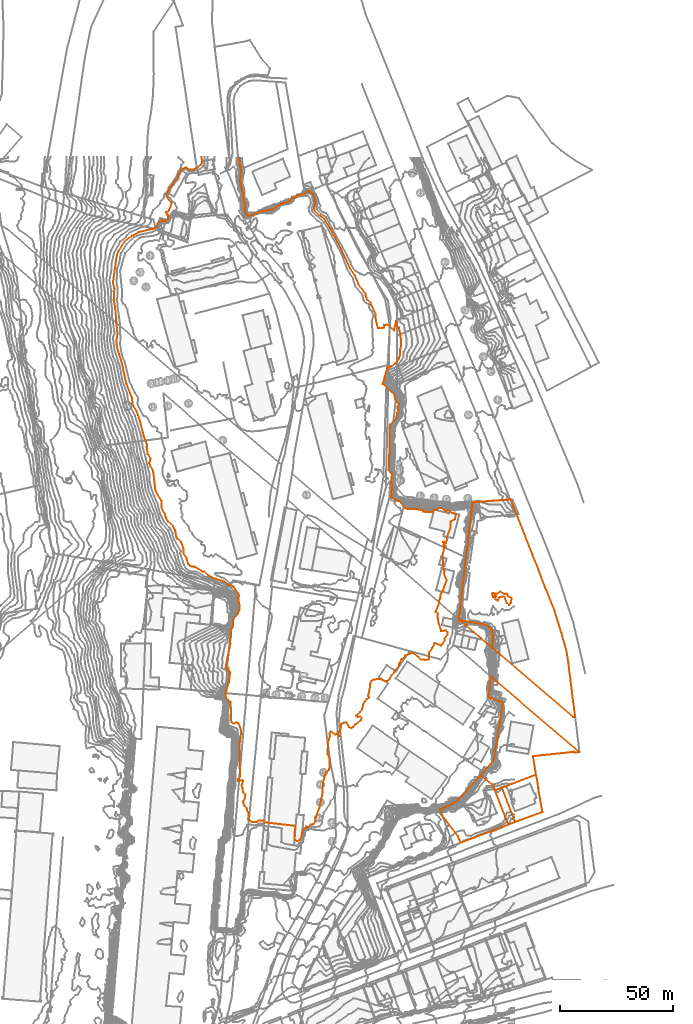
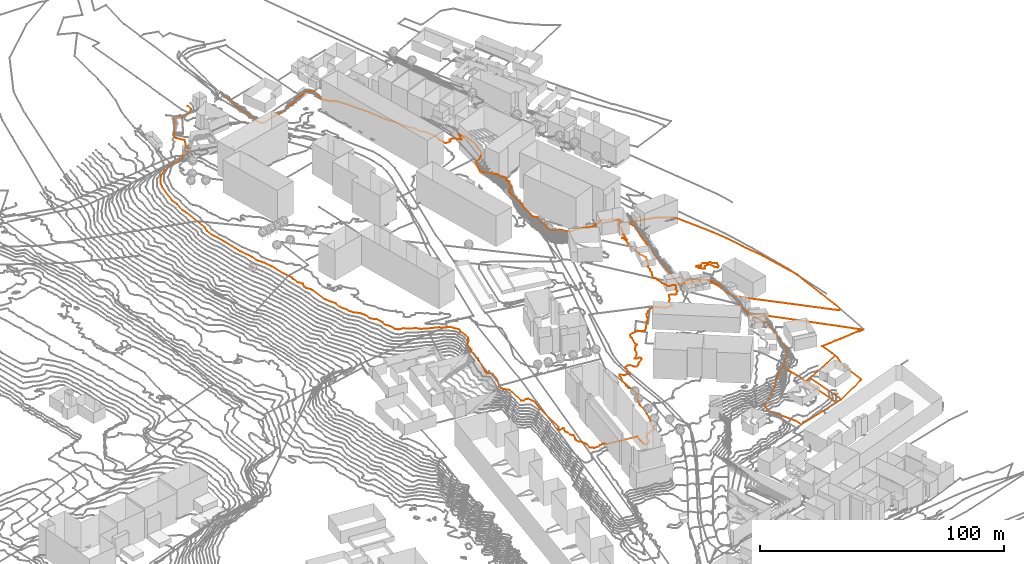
# Not in any storey, part 377 of 419: 8 proxies.
"""IFC2X3 model written with IfcOpenShell, lengths in metres."""

from ifc_helpers import new_model, entity, si_unit, frame, origin_with_axes, place, context, subcontext, project, element, save


model = new_model("IFC2X3")

# Units and contexts
model_context = context("Model", 3, precision=1e-05, world=origin_with_axes())
body_context = subcontext(model_context, "Body", "Model", "MODEL_VIEW")
ifc_project = project(units=[si_unit("AREAUNIT", "SQUARE_METRE"), si_unit("LENGTHUNIT", "METRE")], contexts=[model_context])

# Proxies
proxy_1_placement = place(None, frame((970.9420204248, 753.0076909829, 82.8683754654), z_axis=(0.0, 0.0, 1.0), x_axis=(1.0, 0.0, 0.0)))
element("IfcBuildingElementProxy", 1, at=proxy_1_placement, Name="Cadastre 8", ObjectType="NOTDEFINED", context=body_context, shape_type="GeometricCurveSet", body=[
    entity("IfcGeometricCurveSet", [entity("IfcPolyline", [entity("IfcCartesianPoint", [0.0, 0.0, 0.0]), entity("IfcCartesianPoint", [15.0800000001, 5.7999999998, 2.4126217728]), entity("IfcCartesianPoint", [15.4300000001, 4.4399999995, 2.257627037]), entity("IfcCartesianPoint", [15.87, 1.7000000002, 0.5617233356]), entity("IfcCartesianPoint", [16.13, -0.6299999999, 0.1626233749]), entity("IfcCartesianPoint", [17.92, -10.7200000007, -0.555573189]), entity("IfcCartesianPoint", [17.28, -10.9400000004, -0.6699741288]), entity("IfcCartesianPoint", [5.86, -15.1699999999, -3.4803737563]), entity("IfcCartesianPoint", [0.0, 0.0, 0.0])])]),
])
proxy_2_placement = place(None, frame((961.4220204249, 758.4876909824, 89.5835843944), z_axis=(0.0, 0.0, 1.0), x_axis=(1.0, 0.0, 0.0)))
element("IfcBuildingElementProxy", 2, at=proxy_2_placement, Name="Cadastre 9", ObjectType="NOTDEFINED", context=body_context, shape_type="GeometricCurveSet", body=[
    entity("IfcGeometricCurveSet", [entity("IfcPolyline", [entity("IfcCartesianPoint", [1.11, 1.54, -1.005230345]), entity("IfcCartesianPoint", [5.8099999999, 6.5300000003, 1.5437929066]), entity("IfcCartesianPoint", [8.86, 25.5600000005, -0.0550709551]), entity("IfcCartesianPoint", [9.37, 28.4700000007, -0.3692646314]), entity("IfcCartesianPoint", [9.9199999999, 32.1000000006, -1.8689074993]), entity("IfcCartesianPoint", [3.61, 34.6400000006, 3.0663180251]), entity("IfcCartesianPoint", [4.5399999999, 43.7300000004, 1.9714544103]), entity("IfcCartesianPoint", [5.1299999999, 43.25, 0.2016531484]), entity("IfcCartesianPoint", [7.5399999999, 41.1699999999, -1.876895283]), entity("IfcCartesianPoint", [43.6499999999, 10.29, -4.0517862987]), entity("IfcCartesianPoint", [41.5699999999, 10.0499999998, -4.0781864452]), entity("IfcCartesianPoint", [41.46, 10.4199999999, -4.0374862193]), entity("IfcCartesianPoint", [38.09, 10.0499999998, -4.0781864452]), entity("IfcCartesianPoint", [33.9099999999, 9.6100000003, -4.0755849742]), entity("IfcCartesianPoint", [32.0599999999, 9.3799999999, -4.0617837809]), entity("IfcCartesianPoint", [29.74, 9.1900000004, -4.0503827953]), entity("IfcCartesianPoint", [27.09, 8.8799999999, -4.0350814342]), entity("IfcCartesianPoint", [23.24, 8.4800000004, -4.0550826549]), entity("IfcCartesianPoint", [24.3099999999, 2.4500000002, -4.2211838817]), entity("IfcCartesianPoint", [24.6, 0.3200000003, -4.3025871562]), entity("IfcCartesianPoint", [9.5199999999, -5.4799999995, -6.715208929]), entity("IfcCartesianPoint", [6.37, -6.54, -6.5966871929]), entity("IfcCartesianPoint", [5.75, -4.6499999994, -5.8353374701]), entity("IfcCartesianPoint", [0.47, -0.46, -1.9553640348]), entity("IfcCartesianPoint", [0.0, 0.0, 0.0]), entity("IfcCartesianPoint", [1.11, 1.54, -1.005230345])])]),
])
proxy_3_placement = place(None, frame((967.7920204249, 751.9476909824, 82.9868972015), z_axis=(0.0, 0.0, 1.0), x_axis=(1.0, 0.0, 0.0)))
element("IfcBuildingElementProxy", 3, at=proxy_3_placement, Name="Cadastre 10", ObjectType="NOTDEFINED", context=body_context, shape_type="GeometricCurveSet", body=[
    entity("IfcGeometricCurveSet", [entity("IfcPolyline", [entity("IfcCartesianPoint", [0.0, 0.0, 0.0]), entity("IfcCartesianPoint", [3.1499999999, 1.0600000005, -0.1185217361]), entity("IfcCartesianPoint", [9.0099999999, -14.1099999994, -3.5988954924]), entity("IfcCartesianPoint", [6.0199999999, -15.2599999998, -3.4416612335]), entity("IfcCartesianPoint", [0.0, 0.0, 0.0])])]),
])
proxy_4_placement = place(None, frame((943.5620204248, 743.5476909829, 84.6635524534), z_axis=(0.0, 0.0, 1.0), x_axis=(1.0, 0.0, 0.0)))
element("IfcBuildingElementProxy", 4, at=proxy_4_placement, Name="Cadastre 11", ObjectType="NOTDEFINED", context=body_context, shape_type="GeometricCurveSet", body=[
    entity("IfcGeometricCurveSet", [entity("IfcPolyline", [entity("IfcCartesianPoint", [17.8600000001, 14.9399999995, 4.9200319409]), entity("IfcCartesianPoint", [18.3300000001, 14.4799999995, 2.9646679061]), entity("IfcCartesianPoint", [23.6100000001, 10.29, -0.9153055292]), entity("IfcCartesianPoint", [24.2300000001, 8.3999999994, -1.676655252]), entity("IfcCartesianPoint", [30.25, -6.8600000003, -5.1183164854]), entity("IfcCartesianPoint", [9.05, -14.8900000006, -3.7934117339]), entity("IfcCartesianPoint", [7.89, -11.9199999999, -3.2186648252]), entity("IfcCartesianPoint", [1.14, -3.0800000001, -1.8283359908]), entity("IfcCartesianPoint", [0.0, 0.0, 0.0]), entity("IfcCartesianPoint", [4.54, 1.8799999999, 2.1859338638]), entity("IfcCartesianPoint", [7.66, 3.7799999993, 5.8842881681]), entity("IfcCartesianPoint", [8.88, 5.1600000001, 7.6523685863]), entity("IfcCartesianPoint", [17.8600000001, 14.9399999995, 4.9200319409])])]),
])
proxy_5_placement = place(None, frame((952.3720204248, 827.2176909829, 91.244458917), z_axis=(0.0, 0.0, 1.0), x_axis=(1.0, 0.0, 0.0)))
element("IfcBuildingElementProxy", 5, at=proxy_5_placement, Name="Cadastre 56", ObjectType="NOTDEFINED", context=body_context, shape_type="GeometricCurveSet", body=[
    entity("IfcGeometricCurveSet", [entity("IfcPolyline", [entity("IfcCartesianPoint", [14.37, -12.4300000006, -1.0857318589]), entity("IfcCartesianPoint", [9.24, -8.0300000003, 3.5097724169]), entity("IfcCartesianPoint", [6.21, -5.5300000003, 3.5861718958]), entity("IfcCartesianPoint", [2.4, -2.1299999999, 2.7514077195]), entity("IfcCartesianPoint", [0.51, -0.6100000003, 0.3187066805]), entity("IfcCartesianPoint", [0.0, 0.0, 0.0]), entity("IfcCartesianPoint", [10.72, -1.9500000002, -0.525960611]), entity("IfcCartesianPoint", [11.0699999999, -2.0499999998, -0.4370604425]), entity("IfcCartesianPoint", [12.86, -2.96, -0.7594502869]), entity("IfcCartesianPoint", [14.14, -4.5099999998, -1.7366087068]), entity("IfcCartesianPoint", [14.73, -6.4400000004, -1.2635369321]), entity("IfcCartesianPoint", [14.37, -12.4300000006, -1.0857318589])])]),
])
proxy_6_placement = place(None, frame((951.8520204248, 827.2776909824, 91.6100813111), z_axis=(0.0, 0.0, 1.0), x_axis=(1.0, 0.0, 0.0)))
element("IfcBuildingElementProxy", 6, at=proxy_6_placement, Name="Cadastre 215", ObjectType="NOTDEFINED", context=body_context, shape_type="GeometricCurveSet", body=[
    entity("IfcGeometricCurveSet", [entity("IfcPolyline", [entity("IfcCartesianPoint", [51.59, -42.8899999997, -4.8003837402]), entity("IfcCartesianPoint", [50.55, -42.9799999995, -4.8030836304]), entity("IfcCartesianPoint", [17.39, -14.5, -3.534120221]), entity("IfcCartesianPoint", [15.42, -12.9399999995, -2.276617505]), entity("IfcCartesianPoint", [14.89, -12.4900000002, -1.4513542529]), entity("IfcCartesianPoint", [15.25, -6.5, -1.6291593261]), entity("IfcCartesianPoint", [14.66, -4.5699999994, -2.1022311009]), entity("IfcCartesianPoint", [13.38, -3.0199999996, -1.1250726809]), entity("IfcCartesianPoint", [11.59, -2.1099999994, -0.8026828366]), entity("IfcCartesianPoint", [11.24, -2.0099999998, -0.8915830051]), entity("IfcCartesianPoint", [0.52, -0.0599999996, -0.365622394]), entity("IfcCartesianPoint", [0.0, 0.0, 0.0]), entity("IfcCartesianPoint", [0.01, 0.2800000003, -0.0596442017]), entity("IfcCartesianPoint", [3.14, 27.6400000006, -1.6361626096]), entity("IfcCartesianPoint", [4.64, 39.6600000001, -1.4968015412]), entity("IfcCartesianPoint", [5.1, 44.6100000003, -0.5362623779]), entity("IfcCartesianPoint", [6.0600000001, 52.0800000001, -3.1584013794]), entity("IfcCartesianPoint", [6.38, 52.0800000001, -3.1795229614]), entity("IfcCartesianPoint", [7.9400000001, 52.2800000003, -3.5096829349]), entity("IfcCartesianPoint", [19.97, 53.2300000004, -6.0646875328]), entity("IfcCartesianPoint", [22.86, 53.4500000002, -7.2729046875]), entity("IfcCartesianPoint", [25.53, 47.0300000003, -4.4422805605]), entity("IfcCartesianPoint", [32.6, 29.0200000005, -3.1700788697]), entity("IfcCartesianPoint", [35.38, 22.1600000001, -3.1708790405]), entity("IfcCartesianPoint", [38.22, 14.4900000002, -3.3804836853]), entity("IfcCartesianPoint", [42.26, 4.6800000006, -3.6456812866]), entity("IfcCartesianPoint", [45.4400000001, -5.8399999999, -3.7600828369]), entity("IfcCartesianPoint", [47.72, -13.7799999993, -3.6490804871]), entity("IfcCartesianPoint", [48.53, -19.04, -4.1732795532]), entity("IfcCartesianPoint", [49.87, -29.7199999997, -4.3652836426]), entity("IfcCartesianPoint", [50.99, -38.8399999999, -4.4396830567]), entity("IfcCartesianPoint", [51.59, -42.8899999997, -4.8003837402])])]),
])
proxy_7_placement = place(None, frame((966.5920454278, 838.8976909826, 88.0), z_axis=(0.0, 0.0, 1.0), x_axis=(1.0, 0.0, 0.0)))
element("IfcBuildingElementProxy", 7, at=proxy_7_placement, Name="Contour 88.0 m", ObjectType="NOTDEFINED", context=body_context, shape_type="GeometricCurveSet", body=[
    entity("IfcGeometricCurveSet", [entity("IfcPolyline", [entity("IfcCartesianPoint", [7.499974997, -4.9999833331, 0.0]), entity("IfcCartesianPoint", [8.2499988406, -4.0, 0.0]), entity("IfcCartesianPoint", [8.6537985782, -2.0, 0.0]), entity("IfcCartesianPoint", [6.9999250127, -1.0, 0.0]), entity("IfcCartesianPoint", [6.499974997, 0.1999694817, 0.0]), entity("IfcCartesianPoint", [5.499974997, -0.1666878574, 0.0]), entity("IfcCartesianPoint", [3.499974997, 0.9999000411, 0.0]), entity("IfcCartesianPoint", [2.499974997, 0.1666878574, 0.0]), entity("IfcCartesianPoint", [1.5000749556, 0.0, 0.0]), entity("IfcCartesianPoint", [1.7000055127, -1.0, 0.0]), entity("IfcCartesianPoint", [1.499974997, -1.5000499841, 0.0]), entity("IfcCartesianPoint", [0.9999250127, -1.0, 0.0]), entity("IfcCartesianPoint", [1.4999249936, 0.0, 0.0]), entity("IfcCartesianPoint", [0.499974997, 0.3332909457, 0.0]), entity("IfcCartesianPoint", [0.0, 0.0, 0.0]), entity("IfcCartesianPoint", [0.499974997, -1.4999500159, 0.0]), entity("IfcCartesianPoint", [1.499974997, -2.4999500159, 0.0]), entity("IfcCartesianPoint", [2.499974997, -2.9999499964, 0.0]), entity("IfcCartesianPoint", [2.8332659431, -2.0, 0.0]), entity("IfcCartesianPoint", [3.499974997, -1.4285558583, 0.0]), entity("IfcCartesianPoint", [4.499974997, -1.2142779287, 0.0]), entity("IfcCartesianPoint", [5.499974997, -1.4999900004, 0.0]), entity("IfcCartesianPoint", [6.4999916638, -4.0, 0.0]), entity("IfcCartesianPoint", [7.499974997, -4.9999833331, 0.0])])]),
])
proxy_8_placement = place(None, frame((798.6709693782, 976.8976909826, 96.0), z_axis=(0.0, 0.0, 1.0), x_axis=(1.0, 0.0, 0.0)))
element("IfcBuildingElementProxy", 8, at=proxy_8_placement, Name="Contour 96.0 m", ObjectType="NOTDEFINED", context=body_context, shape_type="GeometricCurveSet", body=[
    entity("IfcGeometricCurveSet", [entity("IfcPolyline", [entity("IfcCartesianPoint", [55.8623657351, 55.5, 0.0]), entity("IfcCartesianPoint", [56.1345649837, 52.0, 0.0]), entity("IfcCartesianPoint", [56.8107948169, 50.0, 0.0]), entity("IfcCartesianPoint", [56.2127187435, 45.0, 0.0]), entity("IfcCartesianPoint", [57.0685326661, 41.0, 0.0]), entity("IfcCartesianPoint", [57.857743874, 39.0, 0.0]), entity("IfcCartesianPoint", [57.5827050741, 38.0, 0.0]), entity("IfcCartesianPoint", [58.6199466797, 34.0, 0.0]), entity("IfcCartesianPoint", [58.4159479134, 32.0, 0.0]), entity("IfcCartesianPoint", [59.1465422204, 30.0, 0.0]), entity("IfcCartesianPoint", [60.4210510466, 29.4224420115, 0.0]), entity("IfcCartesianPoint", [65.4210510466, 31.3765060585, 0.0]), entity("IfcCartesianPoint", [70.4210510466, 32.2385332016, 0.0]), entity("IfcCartesianPoint", [74.4210510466, 34.685237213, 0.0]), entity("IfcCartesianPoint", [78.5910492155, 36.0, 0.0]), entity("IfcCartesianPoint", [79.4210510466, 37.2890859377, 0.0]), entity("IfcCartesianPoint", [80.4210510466, 37.5107394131, 0.0]), entity("IfcCartesianPoint", [81.4210510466, 38.4137934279, 0.0]), entity("IfcCartesianPoint", [84.4210510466, 38.8888898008, 0.0]), entity("IfcCartesianPoint", [85.4210510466, 39.8633075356, 0.0]), entity("IfcCartesianPoint", [86.4210510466, 40.3272737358, 0.0]), entity("IfcCartesianPoint", [88.4210510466, 39.2799987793, 0.0]), entity("IfcCartesianPoint", [89.1323172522, 38.0, 0.0]), entity("IfcCartesianPoint", [89.611526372, 35.0, 0.0]), entity("IfcCartesianPoint", [89.0769654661, 33.0, 0.0]), entity("IfcCartesianPoint", [89.206765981, 32.0, 0.0]), entity("IfcCartesianPoint", [91.4210510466, 29.5131556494, 0.0]), entity("IfcCartesianPoint", [93.6835514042, 28.0, 0.0]), entity("IfcCartesianPoint", [96.1387001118, 24.0, 0.0]), entity("IfcCartesianPoint", [100.9924784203, 15.0, 0.0]), entity("IfcCartesianPoint", [105.0297486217, 6.0, 0.0]), entity("IfcCartesianPoint", [107.1988241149, 3.0, 0.0]), entity("IfcCartesianPoint", [108.807018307, -1.0, 0.0]), entity("IfcCartesianPoint", [111.7772167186, -5.0, 0.0]), entity("IfcCartesianPoint", [112.2854556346, -7.0, 0.0]), entity("IfcCartesianPoint", [112.8550143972, -8.0, 0.0]), entity("IfcCartesianPoint", [114.0188766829, -9.0, 0.0]), entity("IfcCartesianPoint", [116.3289464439, -14.0, 0.0]), entity("IfcCartesianPoint", [116.4210510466, -16.8333121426, 0.0]), entity("IfcCartesianPoint", [117.4210510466, -20.285667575, 0.0]), entity("IfcCartesianPoint", [119.4210510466, -20.285667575, 0.0]), entity("IfcCartesianPoint", [120.0876329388, -20.0, 0.0]), entity("IfcCartesianPoint", [120.0876329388, -19.0, 0.0]), entity("IfcCartesianPoint", [121.4210510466, -18.666666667, 0.0]), entity("IfcCartesianPoint", [124.4210510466, -21.39996948, 0.0]), entity("IfcCartesianPoint", [125.4210510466, -17.2999923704, 0.0]), entity("IfcCartesianPoint", [125.6842216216, -19.0, 0.0]), entity("IfcCartesianPoint", [126.6052621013, -20.0, 0.0]), entity("IfcCartesianPoint", [127.4686623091, -24.0, 0.0]), entity("IfcCartesianPoint", [127.5960496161, -28.0, 0.0]), entity("IfcCartesianPoint", [127.1842168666, -30.0, 0.0]), entity("IfcCartesianPoint", [127.177814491, -32.0, 0.0]), entity("IfcCartesianPoint", [126.5534000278, -34.0, 0.0]), entity("IfcCartesianPoint", [124.9210526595, -36.0, 0.0]), entity("IfcCartesianPoint", [123.4210510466, -37.223530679, 0.0]), entity("IfcCartesianPoint", [121.4210510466, -38.0000032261, 0.0]), entity("IfcCartesianPoint", [119.4789020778, -45.0, 0.0]), entity("IfcCartesianPoint", [124.6566845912, -50.0, 0.0]), entity("IfcCartesianPoint", [125.0752539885, -52.0, 0.0]), entity("IfcCartesianPoint", [126.6654948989, -54.0, 0.0]), entity("IfcCartesianPoint", [125.9382935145, -55.0, 0.0]), entity("IfcCartesianPoint", [125.97660723, -56.0, 0.0]), entity("IfcCartesianPoint", [126.4351924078, -57.0, 0.0]), entity("IfcCartesianPoint", [125.9060800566, -58.0, 0.0]), entity("IfcCartesianPoint", [125.4210510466, -60.325926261, 0.0]), entity("IfcCartesianPoint", [122.7609539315, -63.0, 0.0]), entity("IfcCartesianPoint", [122.4823852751, -65.0, 0.0]), entity("IfcCartesianPoint", [122.612117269, -74.0, 0.0]), entity("IfcCartesianPoint", [122.2739913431, -77.0, 0.0]), entity("IfcCartesianPoint", [122.2821609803, -82.0, 0.0]), entity("IfcCartesianPoint", [122.0237016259, -83.0, 0.0]), entity("IfcCartesianPoint", [123.5761972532, -85.0, 0.0]), entity("IfcCartesianPoint", [123.2056666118, -89.0, 0.0]), entity("IfcCartesianPoint", [123.8554399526, -90.0, 0.0]), entity("IfcCartesianPoint", [123.4787428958, -91.0, 0.0]), entity("IfcCartesianPoint", [123.6597779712, -92.0, 0.0]), entity("IfcCartesianPoint", [123.1816166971, -93.0, 0.0]), entity("IfcCartesianPoint", [123.5024459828, -94.0, 0.0]), entity("IfcCartesianPoint", [123.2441258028, -95.0, 0.0]), entity("IfcCartesianPoint", [125.4210510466, -96.7033639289, 0.0]), entity("IfcCartesianPoint", [126.9071592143, -97.0, 0.0]), entity("IfcCartesianPoint", [129.4210510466, -99.9851490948, 0.0]), entity("IfcCartesianPoint", [130.4210510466, -100.4338230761, 0.0]), entity("IfcCartesianPoint", [134.4210510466, -100.4700012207, 0.0]), entity("IfcCartesianPoint", [136.4210510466, -100.8297871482, 0.0]), entity("IfcCartesianPoint", [137.4210510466, -101.5166639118, 0.0]), entity("IfcCartesianPoint", [138.4210510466, -101.7685189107, 0.0]), entity("IfcCartesianPoint", [140.4210510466, -101.8625949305, 0.0]), entity("IfcCartesianPoint", [141.4210510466, -101.6428610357, 0.0]), entity("IfcCartesianPoint", [142.1002990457, -101.0, 0.0]), entity("IfcCartesianPoint", [143.4210510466, -100.8088276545, 0.0]), entity("IfcCartesianPoint", [144.2181540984, -100.0, 0.0]), entity("IfcCartesianPoint", [145.4210510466, -99.9670657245, 0.0]), entity("IfcCartesianPoint", [147.4210510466, -101.5555461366, 0.0]), entity("IfcCartesianPoint", [148.4210653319, -101.0, 0.0]), entity("IfcCartesianPoint", [150.4210510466, -102.3125119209, 0.0]), entity("IfcCartesianPoint", [151.4210510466, -102.4999900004, 0.0]), entity("IfcCartesianPoint", [151.9210610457, -103.0, 0.0]), entity("IfcCartesianPoint", [151.4210510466, -105.0000999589, 0.0]), entity("IfcCartesianPoint", [149.42110105, -106.0, 0.0]), entity("IfcCartesianPoint", [149.4210760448, -109.0, 0.0]), entity("IfcCartesianPoint", [147.7544691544, -113.0, 0.0]), entity("IfcCartesianPoint", [147.9664803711, -114.0, 0.0]), entity("IfcCartesianPoint", [147.4210510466, -115.60003052, 0.0]), entity("IfcCartesianPoint", [146.4210510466, -114.8333121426, 0.0]), entity("IfcCartesianPoint", [146.1710033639, -115.0, 0.0]), entity("IfcCartesianPoint", [147.4210563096, -117.0, 0.0]), entity("IfcCartesianPoint", [146.4210510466, -116.5000499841, 0.0]), entity("IfcCartesianPoint", [146.5877389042, -118.0, 0.0]), entity("IfcCartesianPoint", [145.99247339, -121.0, 0.0]), entity("IfcCartesianPoint", [146.3496341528, -127.0, 0.0]), entity("IfcCartesianPoint", [146.8210561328, -128.0, 0.0]), entity("IfcCartesianPoint", [146.6518157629, -129.0, 0.0]), entity("IfcCartesianPoint", [147.8210510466, -132.0, 0.0]), entity("IfcCartesianPoint", [146.5789373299, -135.0, 0.0]), entity("IfcCartesianPoint", [146.4210510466, -136.1250238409, 0.0]), entity("IfcCartesianPoint", [145.2067731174, -138.0, 0.0]), entity("IfcCartesianPoint", [144.9664803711, -140.0, 0.0]), entity("IfcCartesianPoint", [144.5044002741, -141.0, 0.0]), entity("IfcCartesianPoint", [144.5321433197, -142.0, 0.0]), entity("IfcCartesianPoint", [142.8210561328, -146.0, 0.0]), entity("IfcCartesianPoint", [143.882591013, -147.0, 0.0]), entity("IfcCartesianPoint", [143.7368436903, -148.0, 0.0]), entity("IfcCartesianPoint", [144.2894657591, -151.0, 0.0]), entity("IfcCartesianPoint", [145.4210510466, -154.4166825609, 0.0]), entity("IfcCartesianPoint", [147.4210510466, -154.3749761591, 0.0]), entity("IfcCartesianPoint", [148.1353834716, -155.0, 0.0]), entity("IfcCartesianPoint", [148.1432567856, -156.0, 0.0]), entity("IfcCartesianPoint", [146.7543778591, -158.0, 0.0]), entity("IfcCartesianPoint", [146.8916551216, -159.0, 0.0]), entity("IfcCartesianPoint", [145.9210593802, -160.0, 0.0]), entity("IfcCartesianPoint", [145.4210510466, -161.0000071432, 0.0]), entity("IfcCartesianPoint", [142.4210510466, -159.8000305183, 0.0]), entity("IfcCartesianPoint", [141.4210510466, -162.1111299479, 0.0]), entity("IfcCartesianPoint", [140.0877177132, -164.0, 0.0]), entity("IfcCartesianPoint", [139.9210760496, -167.0, 0.0]), entity("IfcCartesianPoint", [138.4210510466, -167.2666700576, 0.0]), entity("IfcCartesianPoint", [136.4210510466, -167.039209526, 0.0]), entity("IfcCartesianPoint", [135.4210510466, -166.0303093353, 0.0]), entity("IfcCartesianPoint", [132.4210510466, -164.1111134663, 0.0]), entity("IfcCartesianPoint", [129.4210510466, -165.4166701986, 0.0]), entity("IfcCartesianPoint", [127.8123467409, -167.0, 0.0]), entity("IfcCartesianPoint", [126.7210567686, -169.0, 0.0]), entity("IfcCartesianPoint", [126.6125352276, -170.0, 0.0]), entity("IfcCartesianPoint", [124.8168866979, -172.0, 0.0]), entity("IfcCartesianPoint", [124.5043886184, -173.0, 0.0]), entity("IfcCartesianPoint", [123.4210536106, -174.0, 0.0]), entity("IfcCartesianPoint", [122.4210510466, -175.7333299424, 0.0]), entity("IfcCartesianPoint", [121.4210510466, -176.7317082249, 0.0]), entity("IfcCartesianPoint", [120.4210510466, -176.6909098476, 0.0]), entity("IfcCartesianPoint", [118.4210510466, -175.8387025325, 0.0]), entity("IfcCartesianPoint", [117.4210510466, -175.75, 0.0]), entity("IfcCartesianPoint", [115.4210843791, -176.0, 0.0]), entity("IfcCartesianPoint", [114.4210510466, -176.5714441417, 0.0]), entity("IfcCartesianPoint", [113.8654860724, -178.0, 0.0]), entity("IfcCartesianPoint", [113.9210610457, -179.0, 0.0]), entity("IfcCartesianPoint", [113.0877601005, -183.0, 0.0]), entity("IfcCartesianPoint", [113.4210510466, -184.000033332, 0.0]), entity("IfcCartesianPoint", [112.4210510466, -184.6665818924, 0.0]), entity("IfcCartesianPoint", [111.4210510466, -185.8333121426, 0.0]), entity("IfcCartesianPoint", [110.8496069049, -187.0, 0.0]), entity("IfcCartesianPoint", [110.4210510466, -189.0000249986, 0.0]), entity("IfcCartesianPoint", [109.4210510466, -190.39996948, 0.0]), entity("IfcCartesianPoint", [107.7067186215, -192.0, 0.0]), entity("IfcCartesianPoint", [108.4210510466, -192.5555649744, 0.0]), entity("IfcCartesianPoint", [109.4210510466, -192.3846244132, 0.0]), entity("IfcCartesianPoint", [110.0364266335, -193.0, 0.0]), entity("IfcCartesianPoint", [109.8377336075, -194.0, 0.0]), entity("IfcCartesianPoint", [107.4210510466, -195.7499523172, 0.0]), entity("IfcCartesianPoint", [106.4210510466, -197.0000199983, 0.0]), entity("IfcCartesianPoint", [105.4210510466, -197.5714441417, 0.0]), entity("IfcCartesianPoint", [104.6210815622, -197.0, 0.0]), entity("IfcCartesianPoint", [103.4210510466, -195.1250238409, 0.0]), entity("IfcCartesianPoint", [102.4210510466, -195.0000090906, 0.0]), entity("IfcCartesianPoint", [101.4210510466, -195.39996948, 0.0]), entity("IfcCartesianPoint", [100.9210677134, -196.0, 0.0]), entity("IfcCartesianPoint", [101.0460748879, -197.0, 0.0]), entity("IfcCartesianPoint", [100.4210510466, -199.0000500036, 0.0]), entity("IfcCartesianPoint", [99.42110105, -200.0, 0.0]), entity("IfcCartesianPoint", [100.4210510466, -201.0000199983, 0.0]), entity("IfcCartesianPoint", [99.4210510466, -200.0000999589, 0.0]), entity("IfcCartesianPoint", [98.4210510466, -200.3334181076, 0.0]), entity("IfcCartesianPoint", [96.4210510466, -199.000033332, 0.0]), entity("IfcCartesianPoint", [95.9210677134, -200.0, 0.0]), entity("IfcCartesianPoint", [96.0877601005, -201.0, 0.0]), entity("IfcCartesianPoint", [95.1133451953, -204.0, 0.0]), entity("IfcCartesianPoint", [95.2067731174, -206.0, 0.0]), entity("IfcCartesianPoint", [94.9595216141, -207.0, 0.0]), entity("IfcCartesianPoint", [94.9504469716, -209.0, 0.0]), entity("IfcCartesianPoint", [95.7335629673, -210.0, 0.0]), entity("IfcCartesianPoint", [95.8543818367, -211.0, 0.0]), entity("IfcCartesianPoint", [95.8313094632, -215.0, 0.0]), entity("IfcCartesianPoint", [95.6432779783, -216.0, 0.0]), entity("IfcCartesianPoint", [94.2781627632, -217.0, 0.0]), entity("IfcCartesianPoint", [93.4210510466, -219.7499523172, 0.0]), entity("IfcCartesianPoint", [92.9664803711, -222.0, 0.0]), entity("IfcCartesianPoint", [92.86550491, -226.0, 0.0]), entity("IfcCartesianPoint", [91.4210510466, -232.714332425, 0.0]), entity("IfcCartesianPoint", [89.7543702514, -237.0, 0.0]), entity("IfcCartesianPoint", [89.5934748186, -239.0, 0.0]), entity("IfcCartesianPoint", [88.8210663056, -240.0, 0.0]), entity("IfcCartesianPoint", [87.4210510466, -240.2926870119, 0.0]), entity("IfcCartesianPoint", [86.4210510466, -241.2173884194, 0.0]), entity("IfcCartesianPoint", [85.4210510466, -241.2056086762, 0.0]), entity("IfcCartesianPoint", [84.6340167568, -242.0, 0.0]), entity("IfcCartesianPoint", [83.9010467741, -243.0, 0.0]), entity("IfcCartesianPoint", [83.4210510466, -245.7096869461, 0.0]), entity("IfcCartesianPoint", [82.4210510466, -247.3058854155, 0.0]), entity("IfcCartesianPoint", [81.4210510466, -247.5769242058, 0.0]), entity("IfcCartesianPoint", [80.5386796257, -247.0, 0.0]), entity("IfcCartesianPoint", [80.3622169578, -244.0, 0.0]), entity("IfcCartesianPoint", [80.8916551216, -241.0, 0.0]), entity("IfcCartesianPoint", [80.4210510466, -240.7837804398, 0.0]), entity("IfcCartesianPoint", [67.4210510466, -239.2807045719, 0.0]), entity("IfcCartesianPoint", [66.4210510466, -238.5000038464, 0.0]), entity("IfcCartesianPoint", [65.4210510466, -238.4074032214, 0.0]), entity("IfcCartesianPoint", [64.4210510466, -238.5454293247, 0.0]), entity("IfcCartesianPoint", [63.4210510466, -239.0833346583, 0.0]), entity("IfcCartesianPoint", [61.4210510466, -239.0273928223, 0.0]), entity("IfcCartesianPoint", [59.8496069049, -238.0, 0.0]), entity("IfcCartesianPoint", [60.1710748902, -235.0, 0.0]), entity("IfcCartesianPoint", [59.4210399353, -234.0, 0.0]), entity("IfcCartesianPoint", [59.254363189, -233.0, 0.0]), entity("IfcCartesianPoint", [58.2210205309, -232.0, 0.0]), entity("IfcCartesianPoint", [57.8210205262, -231.0, 0.0]), entity("IfcCartesianPoint", [57.7067186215, -230.0, 0.0]), entity("IfcCartesianPoint", [58.2210205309, -229.0, 0.0]), entity("IfcCartesianPoint", [58.6710987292, -227.0, 0.0]), entity("IfcCartesianPoint", [57.5639393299, -226.0, 0.0]), entity("IfcCartesianPoint", [57.4210343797, -224.0, 0.0]), entity("IfcCartesianPoint", [56.9210260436, -223.0, 0.0]), entity("IfcCartesianPoint", [57.5877389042, -221.0, 0.0]), entity("IfcCartesianPoint", [57.4210510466, -220.5000499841, 0.0]), entity("IfcCartesianPoint", [55.373439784, -221.0, 0.0]), entity("IfcCartesianPoint", [55.3916333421, -220.0, 0.0]), entity("IfcCartesianPoint", [56.1829488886, -219.0, 0.0]), entity("IfcCartesianPoint", [56.1247555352, -204.0, 0.0]), entity("IfcCartesianPoint", [56.7861329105, -199.0, 0.0]), entity("IfcCartesianPoint", [56.3333263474, -197.0, 0.0]), entity("IfcCartesianPoint", [55.4210510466, -195.1538484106, 0.0]), entity("IfcCartesianPoint", [54.4210510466, -194.94118571, 0.0]), entity("IfcCartesianPoint", [53.4210510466, -195.5454524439, 0.0]), entity("IfcCartesianPoint", [52.4210510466, -194.7778060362, 0.0]), entity("IfcCartesianPoint", [52.1064454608, -186.0, 0.0]), entity("IfcCartesianPoint", [50.17012834, -184.0, 0.0]), entity("IfcCartesianPoint", [49.7672051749, -183.0, 0.0]), entity("IfcCartesianPoint", [49.9846867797, -181.0, 0.0]), entity("IfcCartesianPoint", [51.3716670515, -177.0, 0.0]), entity("IfcCartesianPoint", [51.8289455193, -173.0, 0.0]), entity("IfcCartesianPoint", [51.4810486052, -172.0, 0.0]), entity("IfcCartesianPoint", [49.9321644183, -171.0, 0.0]), entity("IfcCartesianPoint", [49.9824543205, -170.0, 0.0]), entity("IfcCartesianPoint", [51.5797794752, -162.0, 0.0]), entity("IfcCartesianPoint", [51.5639081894, -161.0, 0.0]), entity("IfcCartesianPoint", [52.0810547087, -160.0, 0.0]), entity("IfcCartesianPoint", [51.8116764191, -159.0, 0.0]), entity("IfcCartesianPoint", [52.313912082, -157.0, 0.0]), entity("IfcCartesianPoint", [52.1507803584, -154.0, 0.0]), entity("IfcCartesianPoint", [53.0194138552, -153.0, 0.0]), entity("IfcCartesianPoint", [53.3396772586, -149.0, 0.0]), entity("IfcCartesianPoint", [55.2333677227, -147.0, 0.0]), entity("IfcCartesianPoint", [56.012673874, -145.0, 0.0]), entity("IfcCartesianPoint", [56.0574146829, -143.0, 0.0]), entity("IfcCartesianPoint", [55.4736855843, -140.0, 0.0]), entity("IfcCartesianPoint", [55.8123568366, -139.0, 0.0]), entity("IfcCartesianPoint", [55.6171271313, -138.0, 0.0]), entity("IfcCartesianPoint", [53.4210510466, -134.7936542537, 0.0]), entity("IfcCartesianPoint", [50.8081474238, -134.0, 0.0]), entity("IfcCartesianPoint", [49.4210510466, -132.6571444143, 0.0]), entity("IfcCartesianPoint", [44.4210510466, -131.0725778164, 0.0]), entity("IfcCartesianPoint", [42.3932673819, -130.0, 0.0]), entity("IfcCartesianPoint", [40.4210510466, -128.1612974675, 0.0]), entity("IfcCartesianPoint", [39.4210510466, -128.0714259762, 0.0]), entity("IfcCartesianPoint", [36.4210510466, -126.0888900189, 0.0]), entity("IfcCartesianPoint", [34.4210510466, -125.8181786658, 0.0]), entity("IfcCartesianPoint", [33.3947299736, -125.0, 0.0]), entity("IfcCartesianPoint", [32.4877075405, -122.0, 0.0]), entity("IfcCartesianPoint", [31.1554286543, -120.0, 0.0]), entity("IfcCartesianPoint", [31.2695372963, -118.0, 0.0]), entity("IfcCartesianPoint", [30.2089319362, -115.0, 0.0]), entity("IfcCartesianPoint", [28.4210510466, -113.5909106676, 0.0]), entity("IfcCartesianPoint", [28.0496218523, -113.0, 0.0]), entity("IfcCartesianPoint", [27.5665081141, -110.0, 0.0]), entity("IfcCartesianPoint", [27.1073196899, -109.0, 0.0]), entity("IfcCartesianPoint", [26.5162917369, -108.0, 0.0]), entity("IfcCartesianPoint", [24.4018163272, -106.0, 0.0]), entity("IfcCartesianPoint", [23.4210510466, -104.5357220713, 0.0]), entity("IfcCartesianPoint", [23.0877177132, -103.0, 0.0]), entity("IfcCartesianPoint", [21.4210510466, -99.7142779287, 0.0]), entity("IfcCartesianPoint", [21.450468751, -97.0, 0.0]), entity("IfcCartesianPoint", [18.7698915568, -92.0, 0.0]), entity("IfcCartesianPoint", [17.8356847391, -84.0, 0.0]), entity("IfcCartesianPoint", [17.5386994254, -83.0, 0.0]), entity("IfcCartesianPoint", [16.4210510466, -81.2608637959, 0.0]), entity("IfcCartesianPoint", [16.0701790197, -80.0, 0.0]), entity("IfcCartesianPoint", [16.7105284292, -78.0, 0.0]), entity("IfcCartesianPoint", [15.3805120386, -76.0, 0.0]), entity("IfcCartesianPoint", [14.9567731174, -73.0, 0.0]), entity("IfcCartesianPoint", [15.0762298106, -72.0, 0.0]), entity("IfcCartesianPoint", [13.6146030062, -68.0, 0.0]), entity("IfcCartesianPoint", [11.8622318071, -61.0, 0.0]), entity("IfcCartesianPoint", [10.3859691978, -57.0, 0.0]), entity("IfcCartesianPoint", [8.7210523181, -54.0, 0.0]), entity("IfcCartesianPoint", [8.3598287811, -51.0, 0.0]), entity("IfcCartesianPoint", [5.9562591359, -45.0, 0.0]), entity("IfcCartesianPoint", [4.018751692, -36.0, 0.0]), entity("IfcCartesianPoint", [1.8181047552, -29.0, 0.0]), entity("IfcCartesianPoint", [1.5080046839, -26.0, 0.0]), entity("IfcCartesianPoint", [1.9993670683, -23.0, 0.0]), entity("IfcCartesianPoint", [0.7994288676, -10.0, 0.0]), entity("IfcCartesianPoint", [0.3552577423, -8.0, 0.0]), entity("IfcCartesianPoint", [0.602872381, -3.0, 0.0]), entity("IfcCartesianPoint", [0.0, 0.0, 0.0]), entity("IfcCartesianPoint", [1.5092827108, 11.0, 0.0]), entity("IfcCartesianPoint", [2.4210510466, 13.9200134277, 0.0]), entity("IfcCartesianPoint", [5.0271106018, 18.0, 0.0]), entity("IfcCartesianPoint", [8.4210510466, 20.6388865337, 0.0]), entity("IfcCartesianPoint", [11.4210510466, 22.1896556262, 0.0]), entity("IfcCartesianPoint", [17.4210510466, 23.6470621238, 0.0]), entity("IfcCartesianPoint", [19.4210510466, 24.4803916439, 0.0]), entity("IfcCartesianPoint", [19.7107344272, 26.0, 0.0]), entity("IfcCartesianPoint", [21.4210510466, 27.5800018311, 0.0]), entity("IfcCartesianPoint", [22.2496196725, 27.0, 0.0]), entity("IfcCartesianPoint", [22.8348523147, 27.0, 0.0]), entity("IfcCartesianPoint", [24.4210510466, 27.9666659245, 0.0]), entity("IfcCartesianPoint", [24.4210510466, 29.7333299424, 0.0]), entity("IfcCartesianPoint", [23.9766160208, 30.0, 0.0]), entity("IfcCartesianPoint", [23.554367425, 31.0, 0.0]), entity("IfcCartesianPoint", [24.4210510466, 31.3095186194, 0.0]), entity("IfcCartesianPoint", [24.8538894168, 32.0, 0.0]), entity("IfcCartesianPoint", [26.019536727, 35.0, 0.0]), entity("IfcCartesianPoint", [23.7424783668, 38.0, 0.0]), entity("IfcCartesianPoint", [23.5937114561, 39.0, 0.0]), entity("IfcCartesianPoint", [24.8843709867, 41.0, 0.0]), entity("IfcCartesianPoint", [25.1330076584, 42.0, 0.0]), entity("IfcCartesianPoint", [26.4210510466, 43.3716228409, 0.0]), entity("IfcCartesianPoint", [27.3477173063, 45.0, 0.0]), entity("IfcCartesianPoint", [28.5532364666, 46.0, 0.0]), entity("IfcCartesianPoint", [29.0895296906, 48.0, 0.0]), entity("IfcCartesianPoint", [30.4210510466, 50.1652192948, 0.0]), entity("IfcCartesianPoint", [32.4210510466, 50.8117645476, 0.0]), entity("IfcCartesianPoint", [33.4210510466, 49.880951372, 0.0]), entity("IfcCartesianPoint", [35.4210510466, 49.8941172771, 0.0]), entity("IfcCartesianPoint", [37.4210510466, 50.8636410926, 0.0]), entity("IfcCartesianPoint", [38.7672077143, 52.0, 0.0]), entity("IfcCartesianPoint", [39.3830779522, 53.0, 0.0]), entity("IfcCartesianPoint", [39.3143819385, 55.5, 0.0])])]),
])

save(model, "model.ifc")
